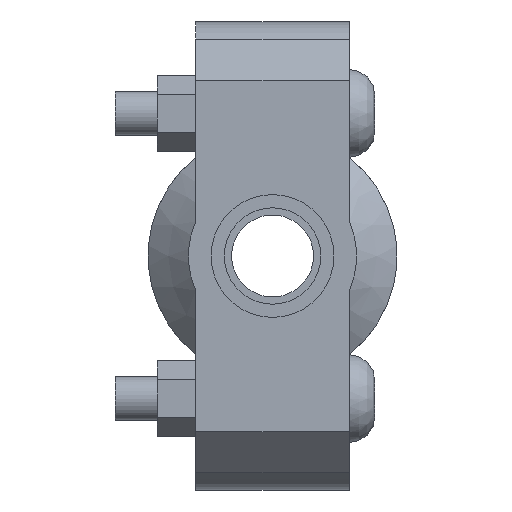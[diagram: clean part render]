
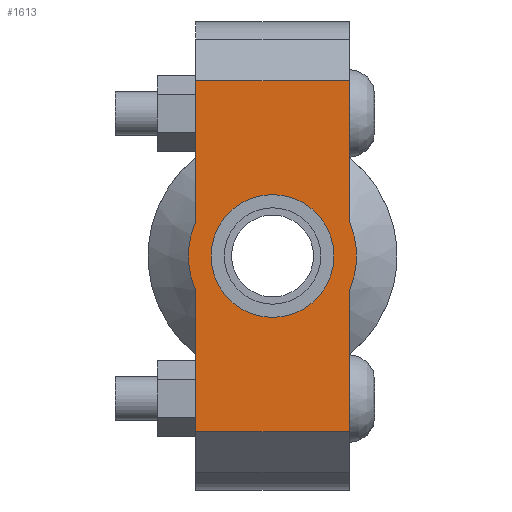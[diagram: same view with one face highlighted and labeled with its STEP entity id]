
A CAD part, left-side view. The second image highlights one B-rep face of the part: STEP entity #1613.
In plain terms, the highlighted planar face has unit normal (-1, 0, 0) as drawn and (0, 0, 1) by its records, which use the part's own axes.
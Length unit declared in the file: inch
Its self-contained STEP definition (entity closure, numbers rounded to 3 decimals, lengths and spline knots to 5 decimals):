
#168=LINE('',#2789,#265);
#183=LINE('',#2848,#280);
#191=LINE('',#2878,#288);
#193=LINE('',#2881,#290);
#194=LINE('',#2886,#291);
#195=LINE('',#2887,#292);
#265=VECTOR('',#2269,0.3937);
#280=VECTOR('',#2304,0.3937);
#288=VECTOR('',#2324,0.3937);
#290=VECTOR('',#2328,0.3937);
#291=VECTOR('',#2333,0.3937);
#292=VECTOR('',#2334,0.3937);
#356=FACE_BOUND('',#533,.T.);
#424=FACE_OUTER_BOUND('',#532,.T.);
#532=EDGE_LOOP('',(#1314,#1315,#1316,#1317,#1318,#1319,#1320,#1321));
#533=EDGE_LOOP('',(#1322));
#615=CIRCLE('',#1841,0.525);
#639=CIRCLE('',#1893,0.719);
#640=CIRCLE('',#1894,0.719);
#711=VERTEX_POINT('',#2615);
#752=VERTEX_POINT('',#2786);
#753=VERTEX_POINT('',#2788);
#774=VERTEX_POINT('',#2843);
#775=VERTEX_POINT('',#2847);
#784=VERTEX_POINT('',#2873);
#785=VERTEX_POINT('',#2877);
#786=VERTEX_POINT('',#2883);
#787=VERTEX_POINT('',#2885);
#875=EDGE_CURVE('',#711,#711,#615,.T.);
#932=EDGE_CURVE('',#753,#752,#168,.T.);
#957=EDGE_CURVE('',#775,#774,#183,.T.);
#970=EDGE_CURVE('',#785,#784,#191,.T.);
#972=EDGE_CURVE('',#785,#752,#193,.T.);
#973=EDGE_CURVE('',#784,#786,#639,.T.);
#974=EDGE_CURVE('',#786,#787,#194,.T.);
#975=EDGE_CURVE('',#775,#787,#195,.T.);
#976=EDGE_CURVE('',#774,#753,#640,.T.);
#1314=ORIENTED_EDGE('',*,*,#972,.F.);
#1315=ORIENTED_EDGE('',*,*,#970,.T.);
#1316=ORIENTED_EDGE('',*,*,#973,.T.);
#1317=ORIENTED_EDGE('',*,*,#974,.T.);
#1318=ORIENTED_EDGE('',*,*,#975,.F.);
#1319=ORIENTED_EDGE('',*,*,#957,.T.);
#1320=ORIENTED_EDGE('',*,*,#976,.T.);
#1321=ORIENTED_EDGE('',*,*,#932,.T.);
#1322=ORIENTED_EDGE('',*,*,#875,.T.);
#1453=PLANE('',#1892);
#1613=ADVANCED_FACE('',(#424,#356),#1453,.T.);
#1841=AXIS2_PLACEMENT_3D('',#2617,#2159,#2160);
#1892=AXIS2_PLACEMENT_3D('',#2882,#2329,#2330);
#1893=AXIS2_PLACEMENT_3D('',#2884,#2331,#2332);
#1894=AXIS2_PLACEMENT_3D('',#2888,#2335,#2336);
#2159=DIRECTION('center_axis',(0.,0.,-1.));
#2160=DIRECTION('ref_axis',(-1.,0.,0.));
#2269=DIRECTION('',(-1.,0.,0.));
#2304=DIRECTION('',(-1.,0.,0.));
#2324=DIRECTION('',(1.,0.,0.));
#2328=DIRECTION('',(0.,1.,0.));
#2329=DIRECTION('center_axis',(0.,0.,1.));
#2330=DIRECTION('ref_axis',(1.,0.,0.));
#2331=DIRECTION('center_axis',(0.,0.,1.));
#2332=DIRECTION('ref_axis',(-1.,0.,0.));
#2333=DIRECTION('',(1.,0.,0.));
#2334=DIRECTION('',(0.,-1.,0.));
#2335=DIRECTION('center_axis',(0.,0.,1.));
#2336=DIRECTION('ref_axis',(-1.,0.,0.));
#2615=CARTESIAN_POINT('',(0.525,0.,0.875));
#2617=CARTESIAN_POINT('Origin',(0.,0.,0.875));
#2786=CARTESIAN_POINT('',(-1.5,0.656,0.875));
#2788=CARTESIAN_POINT('',(-0.29432,0.656,0.875));
#2789=CARTESIAN_POINT('',(2.,0.656,0.875));
#2843=CARTESIAN_POINT('',(0.29432,0.656,0.875));
#2847=CARTESIAN_POINT('',(1.5,0.656,0.875));
#2848=CARTESIAN_POINT('',(2.,0.656,0.875));
#2873=CARTESIAN_POINT('',(-0.29432,-0.656,0.875));
#2877=CARTESIAN_POINT('',(-1.5,-0.656,0.875));
#2878=CARTESIAN_POINT('',(-2.,-0.656,0.875));
#2881=CARTESIAN_POINT('',(-1.5,0.328,0.875));
#2882=CARTESIAN_POINT('Origin',(0.,0.,
0.875));
#2883=CARTESIAN_POINT('',(0.29432,-0.656,0.875));
#2884=CARTESIAN_POINT('Origin',(0.,0.,0.875));
#2885=CARTESIAN_POINT('',(1.5,-0.656,0.875));
#2886=CARTESIAN_POINT('',(-2.,-0.656,0.875));
#2887=CARTESIAN_POINT('',(1.5,-0.328,0.875));
#2888=CARTESIAN_POINT('Origin',(0.,0.,0.875));
